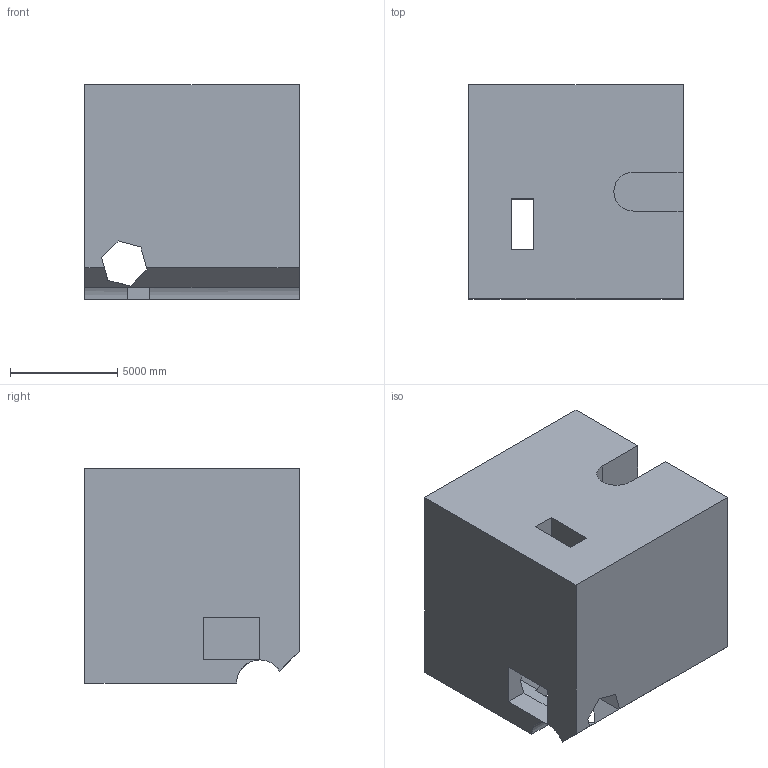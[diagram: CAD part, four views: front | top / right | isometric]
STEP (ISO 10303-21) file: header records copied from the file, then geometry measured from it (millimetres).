
FILE_DESCRIPTION (( 'STEP AP203' ), '1' );
FILE_NAME ('1695.STEP', '2022-08-19T11:47:59', ( 'user' ), ( '' ), 'SwSTEP 2.0', 'SolidWorks 2021', '' );
FILE_SCHEMA (( 'CONFIG_CONTROL_DESIGN' ));
Length unit declared in the file: centimetre
Products named in the file (1): 1695
Bounding box: 10000 x 10000 x 10000 mm (x, y, z)
Volume: 852518887022.1 mm3; surface area: 801581842.4 mm2
Topology: 1 solids, 1 shells, 40 faces, 126 edges, 84 vertices
Faces by surface type: plane 38, cylinder 2
Entity records: 1469 total; most frequent: CARTESIAN_POINT 263, ORIENTED_EDGE 252, DIRECTION 210, EDGE_CURVE 126, VECTOR 116, LINE 116, VERTEX_POINT 84, AXIS2_PLACEMENT_3D 47
